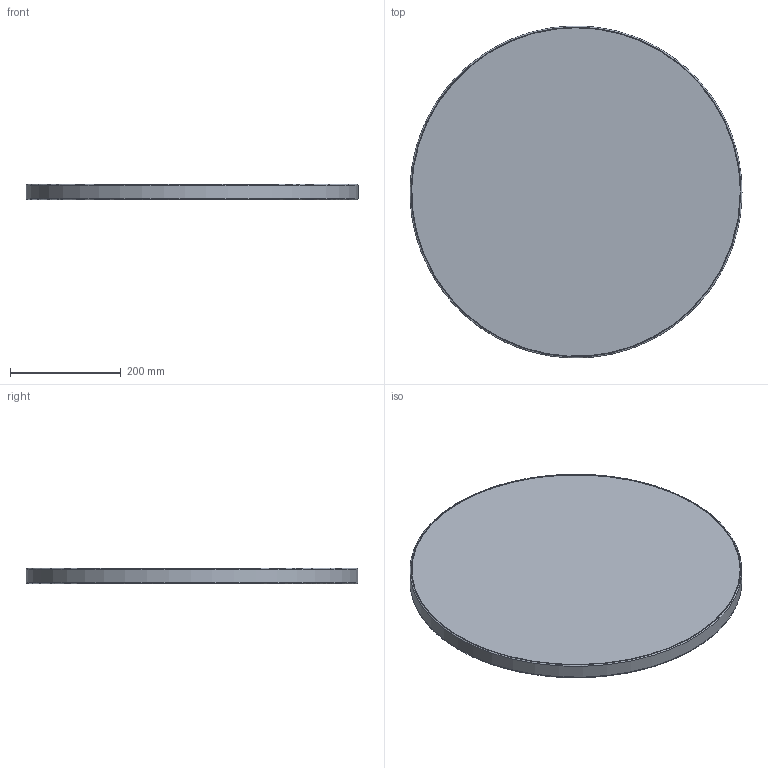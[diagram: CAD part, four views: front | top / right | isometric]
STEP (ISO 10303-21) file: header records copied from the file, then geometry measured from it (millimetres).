
FILE_DESCRIPTION(/* description */ (''),/* implementation_level */ '2;1');
FILE_NAME(/* name */ 'KINOSH~1',/* time_stamp */ '2021-12-15T14:03:27+09:00',/* author */ (''),/* organization */ (''),/* preprocessor_version */ 'ST-DEVELOPER v16.5',/* originating_system */ '',/* authorisation */ '');
FILE_SCHEMA (('AUTOMOTIVE_DESIGN'));
Length unit declared in the file: millimetre
Products named in the file (1): Document
Bounding box: 599.99 x 599.71 x 28 mm (x, y, z)
Volume: 7977434.1 mm3; surface area: 616367.7 mm2
Topology: 1 solids, 1 shells, 9 faces, 13 edges, 8 vertices
Faces by surface type: bspline 5, plane 4
Entity records: 350 total; most frequent: CARTESIAN_POINT 226, ORIENTED_EDGE 26, EDGE_CURVE 13, EDGE_LOOP 11, ADVANCED_FACE 9, FACE_OUTER_BOUND 9, VERTEX_POINT 8, DIRECTION 8
